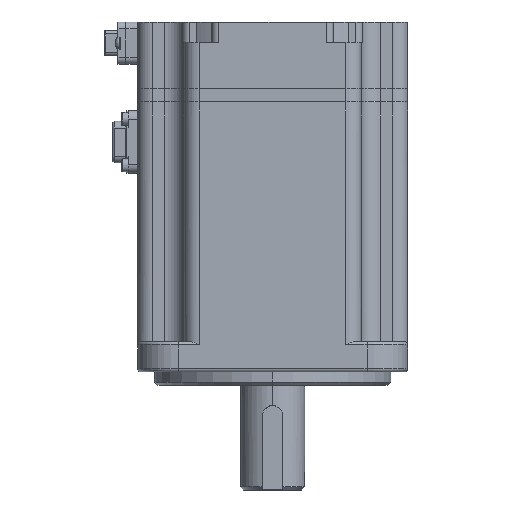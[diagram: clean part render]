
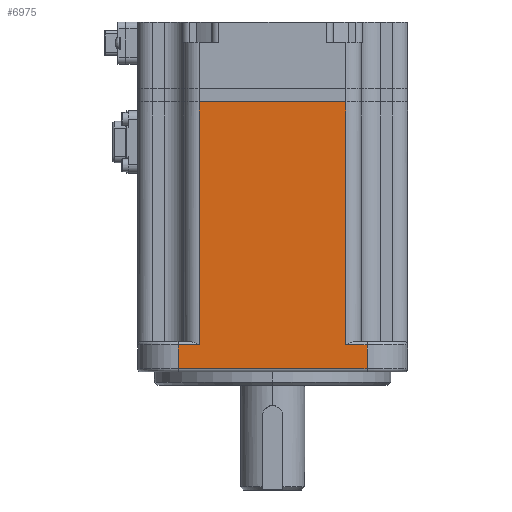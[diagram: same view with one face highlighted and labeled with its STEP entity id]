
A CAD part, left-side view. The second image highlights one B-rep face of the part: STEP entity #6975.
In plain terms, the highlighted planar face has unit normal (-1, 0, 0).
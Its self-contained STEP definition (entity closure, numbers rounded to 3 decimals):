
#269 = VECTOR ( 'NONE', #6428, 1000. ) ;
#305 = VECTOR ( 'NONE', #31352, 1000. ) ;
#434 = LINE ( 'NONE', #47756, #5047 ) ;
#1258 = CARTESIAN_POINT ( 'NONE',  ( -40., 21.75, 84. ) ) ;
#1532 = EDGE_CURVE ( 'NONE', #40506, #20570, #21205, .T. ) ;
#2652 = VECTOR ( 'NONE', #32661, 1000. ) ;
#2744 = AXIS2_PLACEMENT_3D ( 'NONE', #15873, #14486, #42284 ) ;
#3624 = CARTESIAN_POINT ( 'NONE',  ( -40., -21.75, 84. ) ) ;
#5047 = VECTOR ( 'NONE', #38880, 1000. ) ;
#6428 = DIRECTION ( 'NONE',  ( 0., 0., -1. ) ) ;
#6975 = ADVANCED_FACE ( 'NONE', ( #39870 ), #59122, .F. ) ;
#8001 = CARTESIAN_POINT ( 'NONE',  ( -40., 21.75, 12. ) ) ;
#9310 = LINE ( 'NONE', #52539, #2652 ) ;
#10366 = CARTESIAN_POINT ( 'NONE',  ( -40., -28., 12. ) ) ;
#12126 = CARTESIAN_POINT ( 'NONE',  ( -40., -28., 5. ) ) ;
#12833 = ORIENTED_EDGE ( 'NONE', *, *, #35154, .T. ) ;
#12960 = DIRECTION ( 'NONE',  ( 0., 0., -1. ) ) ;
#13100 = VERTEX_POINT ( 'NONE', #10366 ) ;
#13745 = VERTEX_POINT ( 'NONE', #55775 ) ;
#14486 = DIRECTION ( 'NONE',  ( 1., 0., 0. ) ) ;
#15074 = EDGE_CURVE ( 'NONE', #31829, #13100, #59984, .T. ) ;
#15873 = CARTESIAN_POINT ( 'NONE',  ( -40., 40., 13. ) ) ;
#17758 = DIRECTION ( 'NONE',  ( 0., 1., 0. ) ) ;
#17953 = EDGE_CURVE ( 'NONE', #30507, #40506, #61328, .T. ) ;
#18070 = CARTESIAN_POINT ( 'NONE',  ( -40., 40., 12. ) ) ;
#18470 = EDGE_CURVE ( 'NONE', #19359, #13745, #55571, .T. ) ;
#18943 = CARTESIAN_POINT ( 'NONE',  ( -40., 21.75, 84. ) ) ;
#19359 = VERTEX_POINT ( 'NONE', #3624 ) ;
#19467 = EDGE_CURVE ( 'NONE', #13100, #13745, #434, .T. ) ;
#20079 = VECTOR ( 'NONE', #41025, 1000. ) ;
#20570 = VERTEX_POINT ( 'NONE', #38779 ) ;
#21205 = LINE ( 'NONE', #25920, #269 ) ;
#25203 = EDGE_CURVE ( 'NONE', #54718, #19359, #49182, .T. ) ;
#25920 = CARTESIAN_POINT ( 'NONE',  ( -40., 28., 13. ) ) ;
#27560 = EDGE_LOOP ( 'NONE', ( #12833, #31497, #47929, #42091, #34061, #40519, #49480, #44084 ) ) ;
#30507 = VERTEX_POINT ( 'NONE', #8001 ) ;
#31352 = DIRECTION ( 'NONE',  ( 0., -1., 0. ) ) ;
#31497 = ORIENTED_EDGE ( 'NONE', *, *, #17953, .T. ) ;
#31829 = VERTEX_POINT ( 'NONE', #59981 ) ;
#32661 = DIRECTION ( 'NONE',  ( 0., 0., -1. ) ) ;
#34061 = ORIENTED_EDGE ( 'NONE', *, *, #15074, .T. ) ;
#34977 = DIRECTION ( 'NONE',  ( 0., -1., 0. ) ) ;
#35154 = EDGE_CURVE ( 'NONE', #54718, #30507, #9310, .T. ) ;
#36938 = CARTESIAN_POINT ( 'NONE',  ( -40., -21.75, 84. ) ) ;
#38779 = CARTESIAN_POINT ( 'NONE',  ( -40., 28., 5. ) ) ;
#38880 = DIRECTION ( 'NONE',  ( 0., 1., 0. ) ) ;
#39870 = FACE_OUTER_BOUND ( 'NONE', #27560, .T. ) ;
#40506 = VERTEX_POINT ( 'NONE', #51570 ) ;
#40519 = ORIENTED_EDGE ( 'NONE', *, *, #19467, .T. ) ;
#40844 = LINE ( 'NONE', #12126, #305 ) ;
#41025 = DIRECTION ( 'NONE',  ( 0., 0., 1. ) ) ;
#42091 = ORIENTED_EDGE ( 'NONE', *, *, #55331, .T. ) ;
#42284 = DIRECTION ( 'NONE',  ( 0., 1., 0. ) ) ;
#44084 = ORIENTED_EDGE ( 'NONE', *, *, #25203, .F. ) ;
#47756 = CARTESIAN_POINT ( 'NONE',  ( -40., 40., 12. ) ) ;
#47929 = ORIENTED_EDGE ( 'NONE', *, *, #1532, .T. ) ;
#49182 = LINE ( 'NONE', #1258, #52774 ) ;
#49480 = ORIENTED_EDGE ( 'NONE', *, *, #18470, .F. ) ;
#51570 = CARTESIAN_POINT ( 'NONE',  ( -40., 28., 12. ) ) ;
#52539 = CARTESIAN_POINT ( 'NONE',  ( -40., 21.75, 84. ) ) ;
#52774 = VECTOR ( 'NONE', #34977, 1000. ) ;
#54718 = VERTEX_POINT ( 'NONE', #18943 ) ;
#55235 = CARTESIAN_POINT ( 'NONE',  ( -40., -28., 13. ) ) ;
#55331 = EDGE_CURVE ( 'NONE', #20570, #31829, #40844, .T. ) ;
#55571 = LINE ( 'NONE', #36938, #62361 ) ;
#55775 = CARTESIAN_POINT ( 'NONE',  ( -40., -21.75, 12. ) ) ;
#56023 = VECTOR ( 'NONE', #17758, 1000. ) ;
#59122 = PLANE ( 'NONE',  #2744 ) ;
#59981 = CARTESIAN_POINT ( 'NONE',  ( -40., -28., 5. ) ) ;
#59984 = LINE ( 'NONE', #55235, #20079 ) ;
#61328 = LINE ( 'NONE', #18070, #56023 ) ;
#62361 = VECTOR ( 'NONE', #12960, 1000. ) ;
